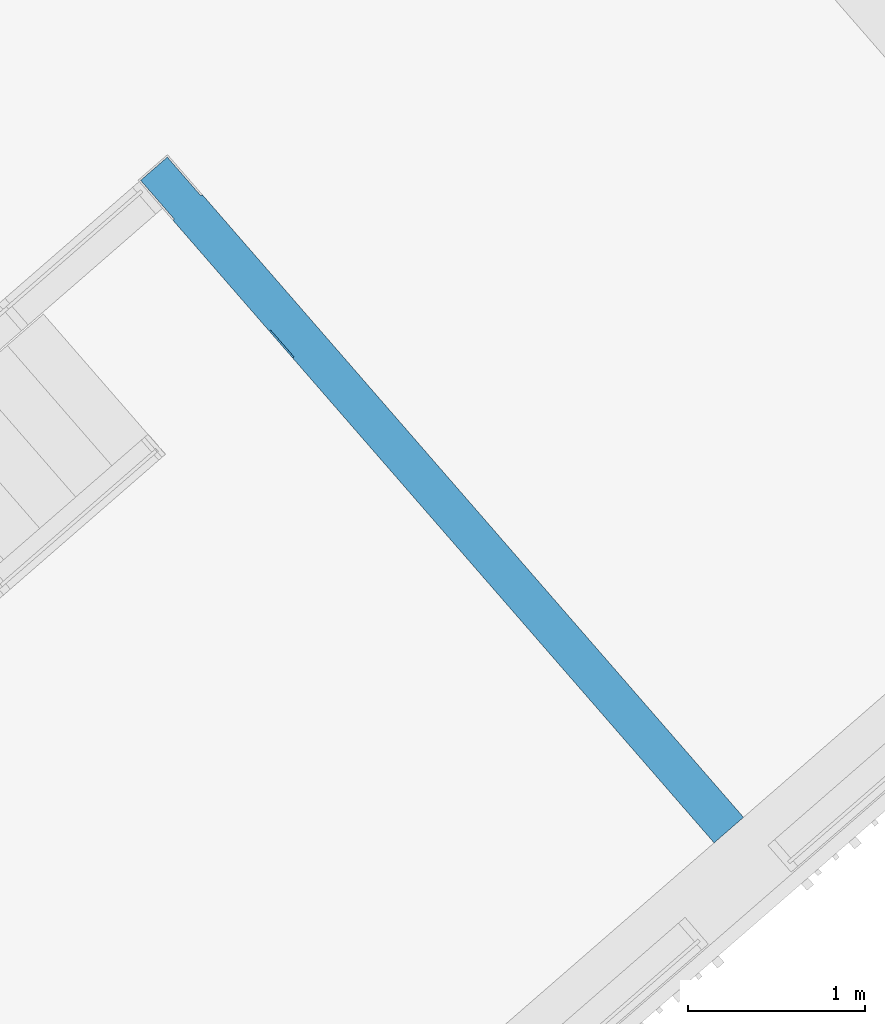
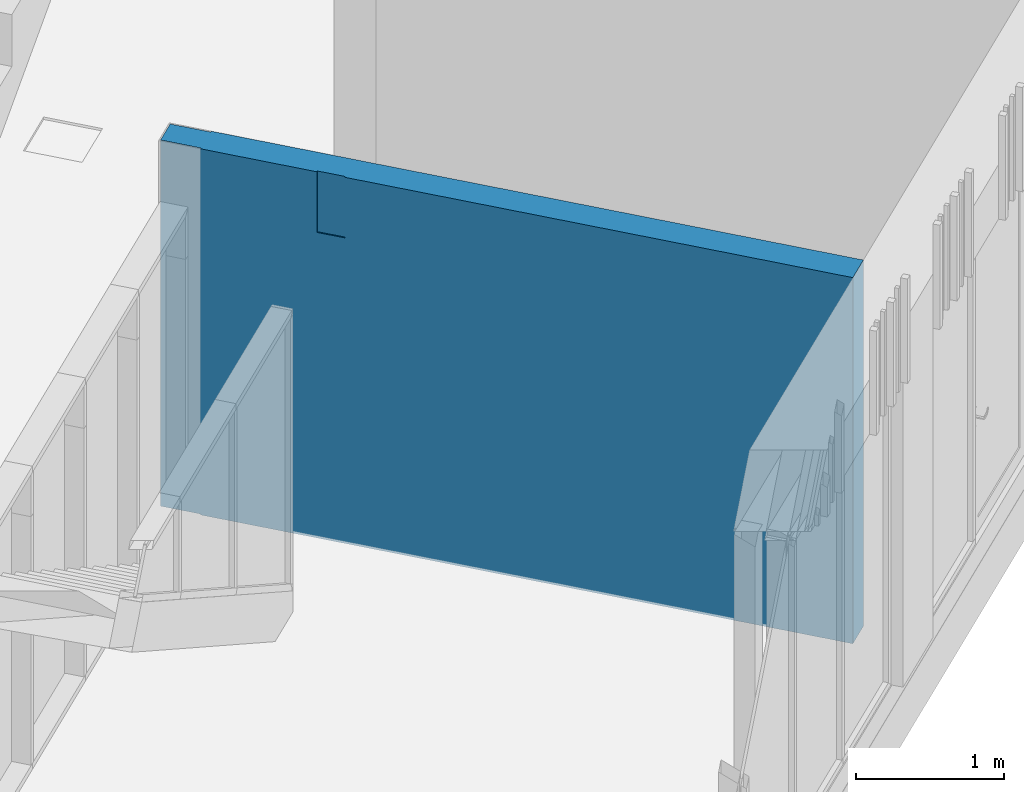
# One storey, part 69 of 124: 1 wall.
"""IFC2X3 building model written with IfcOpenShell, lengths in millimetres."""

from ifc_helpers import new_model, entity, si_unit, converted_unit, derived_unit, money_unit, direction, frame, origin_with_axes, place, context, subcontext, project, spatial, faceted_brep, material, material_list, type_object, element, save


model = new_model("IFC2X3")

# Units and contexts
model_context = context("Model", 3, precision=1e-05, world=origin_with_axes(), true_north=direction((0.0, 1.0)))
body_context = subcontext(model_context, "Body", "Model", "MODEL_VIEW")
ifc_project = project(units=[si_unit("LENGTHUNIT", "METRE", prefix="MILLI"), si_unit("AREAUNIT", "SQUARE_METRE"), si_unit("VOLUMEUNIT", "CUBIC_METRE"), converted_unit("PLANEANGLEUNIT", "DEGREE", entity("IfcPlaneAngleMeasure", 0.0174532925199), si_unit("PLANEANGLEUNIT", "RADIAN"), dimensions=[0, 0, 0, 0, 0, 0, 0]), si_unit("SOLIDANGLEUNIT", "STERADIAN"), money_unit("EUR"), converted_unit("TIMEUNIT", "Year", entity("IfcTimeMeasure", 31556926.0), si_unit("TIMEUNIT", "SECOND"), dimensions=[0, 0, 1, 0, 0, 0, 0]), si_unit("MASSUNIT", "GRAM", prefix="KILO"), si_unit("THERMODYNAMICTEMPERATUREUNIT", "DEGREE_CELSIUS"), si_unit("LUMINOUSINTENSITYUNIT", "LUMEN"), si_unit("ENERGYUNIT", "JOULE", prefix="MEGA"), derived_unit("THERMALCONDUCTANCEUNIT", [(si_unit("POWERUNIT", "WATT"), 1), (si_unit("LENGTHUNIT", "METRE"), -1), (si_unit("THERMODYNAMICTEMPERATUREUNIT", "KELVIN"), -1)]), derived_unit("SPECIFICHEATCAPACITYUNIT", [(si_unit("ENERGYUNIT", "JOULE"), 1), (si_unit("MASSUNIT", "GRAM", prefix="KILO"), -1), (si_unit("THERMODYNAMICTEMPERATUREUNIT", "KELVIN"), -1)]), derived_unit("MASSDENSITYUNIT", [(si_unit("MASSUNIT", "GRAM", prefix="KILO"), 1), (si_unit("VOLUMEUNIT", "CUBIC_METRE"), -1)])], contexts=[model_context])

# Site, building, storey
site_placement = place(None, origin_with_axes())
site = spatial("IfcSite", under=ifc_project, at=site_placement, Name="Site", CompositionType="ELEMENT")
building_placement = place(site_placement, origin_with_axes())
building = spatial("IfcBuilding", under=site, at=building_placement, Name="Building", CompositionType="ELEMENT")
storey_placement = place(building_placement, frame((0.0, 0.0, -1615.0), z_axis=(0.0, 0.0, 1.0), x_axis=(1.0, 0.0, 0.0)))
storey = spatial("IfcBuildingStorey", under=building, at=storey_placement, Name="0  korrus", CompositionType="ELEMENT", Elevation=-1615.0)

# Wall
ifc_material_1 = material(Name="Krohv - Lubjakivi")
ifc_material_2 = material(Name="Raudbetoon - Konstruktsioon")
ifc_material_list = material_list([ifc_material_1, ifc_material_2, ifc_material_1])
wall_type = type_object("IfcWallType", Name="SS-10", PredefinedType="NOTDEFINED")
wall_placement = place(storey_placement, frame((159531.56171, 90573.0087427, -20.0), z_axis=(0.0, 0.0, 1.0), x_axis=(0.656058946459, -0.754709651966, 0.0)))
element("IfcWall", 1, at=wall_placement, inside=storey, type_object=wall_type, material=ifc_material_list, Name="SS-10", context=body_context, shape_type="Brep", body=[
    faceted_brep([(300.0, 220.0, 0.0), (300.0, 220.0, 3020.0), (4960.00000028, 220.0, 3020.0), (4960.00000028, 220.0, 0.0), (300.0, 210.0, 3020.0), (300.0, 210.0, 0.0), (4960.00000028, 210.0, 3020.0), (4960.00000028, 210.0, 0.0)], [[[0, 1, 2, 3]], [[4, 1, 0, 5]], [[1, 4, 6, 2]], [[6, 7, 3, 2]], [[5, 0, 3, 7]], [[4, 5, 7, 6]]]),
    faceted_brep([(10.0, 210.0, 0.0), (10.0, 210.0, 3020.0), (4960.00000028, 210.0, 3020.0), (4960.00000028, 210.0, 0.0), (10.0, 10.0, 3020.0), (10.0, 10.0, 0.0), (4960.00000028, 10.0, 3020.0), (4960.00000028, 10.0, 0.0)], [[[0, 1, 2, 3]], [[4, 1, 0, 5]], [[1, 4, 6, 2]], [[2, 6, 7, 3]], [[5, 0, 3, 7]], [[4, 5, 7, 6]]]),
    faceted_brep([(300.0, 10.0, 0.0), (300.0, 10.0, 3020.0), (1129.99999606, 10.0, 3020.0), (1129.99999606, 10.0, 2520.00002321), (1329.99999606, 10.0, 2520.00002321), (1329.99999606, 9.99999999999, 3020.0), (4960.00000028, 10.0, 3020.0), (4960.00000028, 10.0, 0.0), (300.0, 0.0, 3020.0), (300.0, 0.0, 0.0), (1129.99999717, 0.0, 3020.0), (1129.99999717, 0.0, 2520.00002321), (1329.99999717, 0.0, 2520.00002321), (1329.99999717, 0.0, 3020.0), (4960.00000028, 0.0, 3020.0), (4960.00000028, 0.0, 0.0)], [[[0, 1, 2, 3, 4, 5, 6, 7]], [[8, 1, 0, 9]], [[1, 8, 10, 2]], [[10, 11, 3, 2]], [[11, 12, 4, 3]], [[4, 12, 13, 5]], [[14, 6, 5, 13]], [[6, 14, 15, 7]], [[9, 0, 7, 15]], [[8, 9, 15, 14, 13, 12, 11, 10]]]),
])

save(model, "model.ifc")
